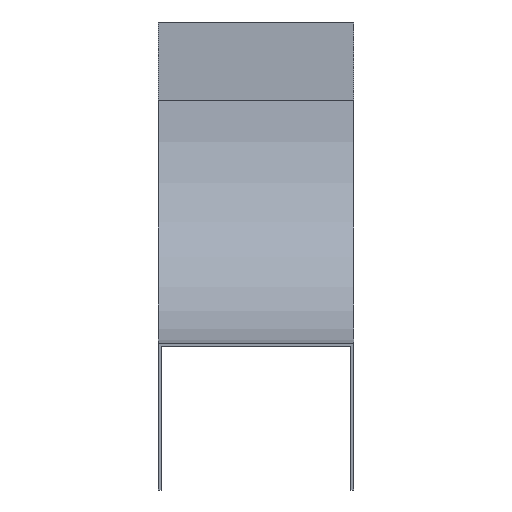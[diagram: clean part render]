
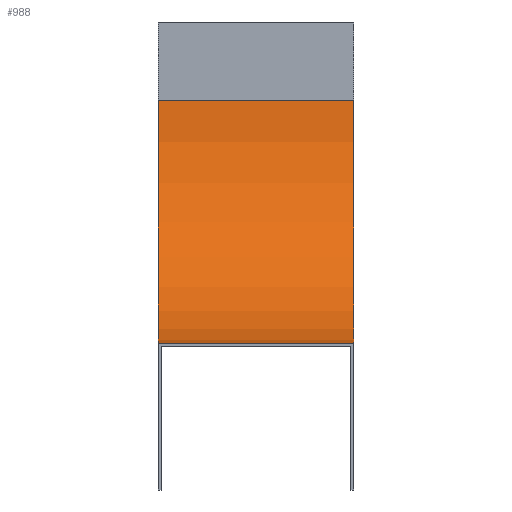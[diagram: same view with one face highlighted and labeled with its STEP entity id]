
A CAD part, front view. The second image highlights one B-rep face of the part: STEP entity #988.
In plain terms, the highlighted cylindrical face has radius 125 mm (diameter 250 mm), a partial arc.
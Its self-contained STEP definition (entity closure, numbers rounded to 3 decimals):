
#88 = DIRECTION ( 'NONE',  ( -1., 0., 0. ) ) ;
#203 = CARTESIAN_POINT ( 'NONE',  ( -50., -125., -165. ) ) ;
#209 = ORIENTED_EDGE ( 'NONE', *, *, #398, .F. ) ;
#226 = CARTESIAN_POINT ( 'NONE',  ( -50., 0., -40. ) ) ;
#271 = DIRECTION ( 'NONE',  ( 0., 0., 1. ) ) ;
#284 = VECTOR ( 'NONE', #844, 1000. ) ;
#291 = DIRECTION ( 'NONE',  ( 0., 0., 1. ) ) ;
#302 = EDGE_CURVE ( 'NONE', #1322, #1458, #956, .T. ) ;
#336 = LINE ( 'NONE', #487, #284 ) ;
#398 = EDGE_CURVE ( 'NONE', #1458, #726, #336, .T. ) ;
#446 = EDGE_CURVE ( 'NONE', #1364, #726, #848, .T. ) ;
#487 = CARTESIAN_POINT ( 'NONE',  ( 50., -125., -165. ) ) ;
#488 = ORIENTED_EDGE ( 'NONE', *, *, #302, .F. ) ;
#676 = DIRECTION ( 'NONE',  ( -1., 0., 0. ) ) ;
#715 = EDGE_LOOP ( 'NONE', ( #1383, #209, #488, #936 ) ) ;
#725 = EDGE_CURVE ( 'NONE', #1322, #1364, #1099, .T. ) ;
#726 = VERTEX_POINT ( 'NONE', #203 ) ;
#741 = DIRECTION ( 'NONE',  ( 0., 0., 1. ) ) ;
#836 = CARTESIAN_POINT ( 'NONE',  ( -50., -125., -40. ) ) ;
#844 = DIRECTION ( 'NONE',  ( -1., 0., 0. ) ) ;
#848 = CIRCLE ( 'NONE', #1230, 125. ) ;
#911 = CYLINDRICAL_SURFACE ( 'NONE', #1285, 125. ) ;
#936 = ORIENTED_EDGE ( 'NONE', *, *, #725, .T. ) ;
#956 = CIRCLE ( 'NONE', #1283, 125. ) ;
#988 = ADVANCED_FACE ( 'NONE', ( #1668 ), #911, .F. ) ;
#1094 = VECTOR ( 'NONE', #88, 1000. ) ;
#1099 = LINE ( 'NONE', #1520, #1094 ) ;
#1133 = CARTESIAN_POINT ( 'NONE',  ( 50., -125., -40. ) ) ;
#1230 = AXIS2_PLACEMENT_3D ( 'NONE', #836, #1387, #741 ) ;
#1283 = AXIS2_PLACEMENT_3D ( 'NONE', #1466, #676, #291 ) ;
#1285 = AXIS2_PLACEMENT_3D ( 'NONE', #1133, #1431, #271 ) ;
#1292 = CARTESIAN_POINT ( 'NONE',  ( 50., 0., -40. ) ) ;
#1322 = VERTEX_POINT ( 'NONE', #1292 ) ;
#1333 = CARTESIAN_POINT ( 'NONE',  ( 50., -125., -165. ) ) ;
#1364 = VERTEX_POINT ( 'NONE', #226 ) ;
#1383 = ORIENTED_EDGE ( 'NONE', *, *, #446, .T. ) ;
#1387 = DIRECTION ( 'NONE',  ( -1., 0., 0. ) ) ;
#1431 = DIRECTION ( 'NONE',  ( -1., 0., 0. ) ) ;
#1458 = VERTEX_POINT ( 'NONE', #1333 ) ;
#1466 = CARTESIAN_POINT ( 'NONE',  ( 50., -125., -40. ) ) ;
#1520 = CARTESIAN_POINT ( 'NONE',  ( 50., 0., -40. ) ) ;
#1668 = FACE_OUTER_BOUND ( 'NONE', #715, .T. ) ;
